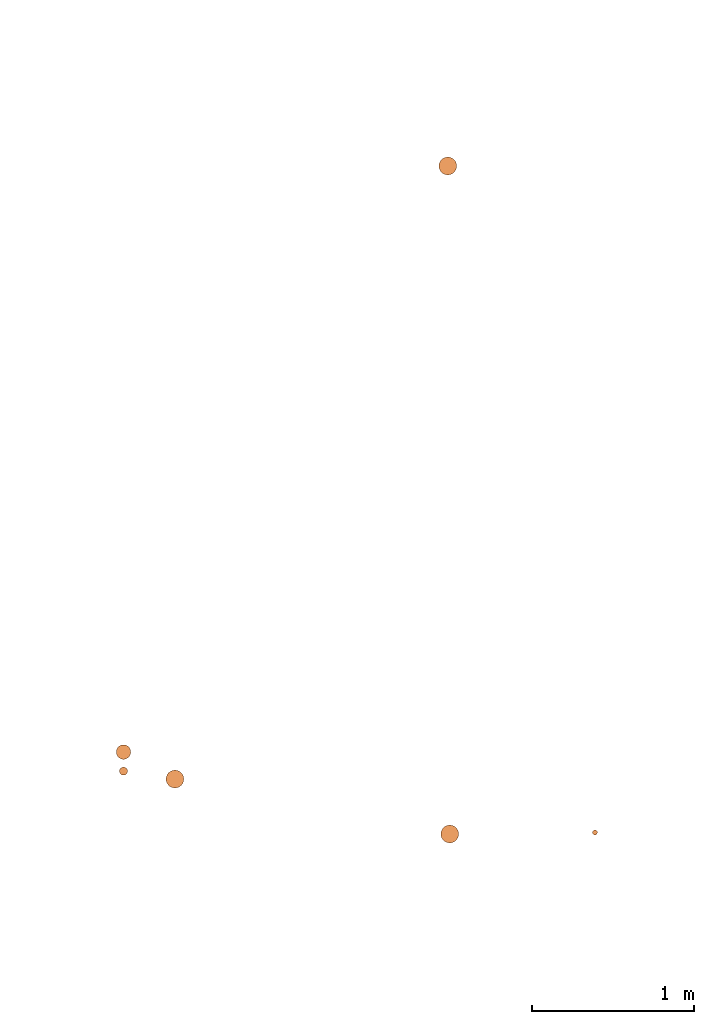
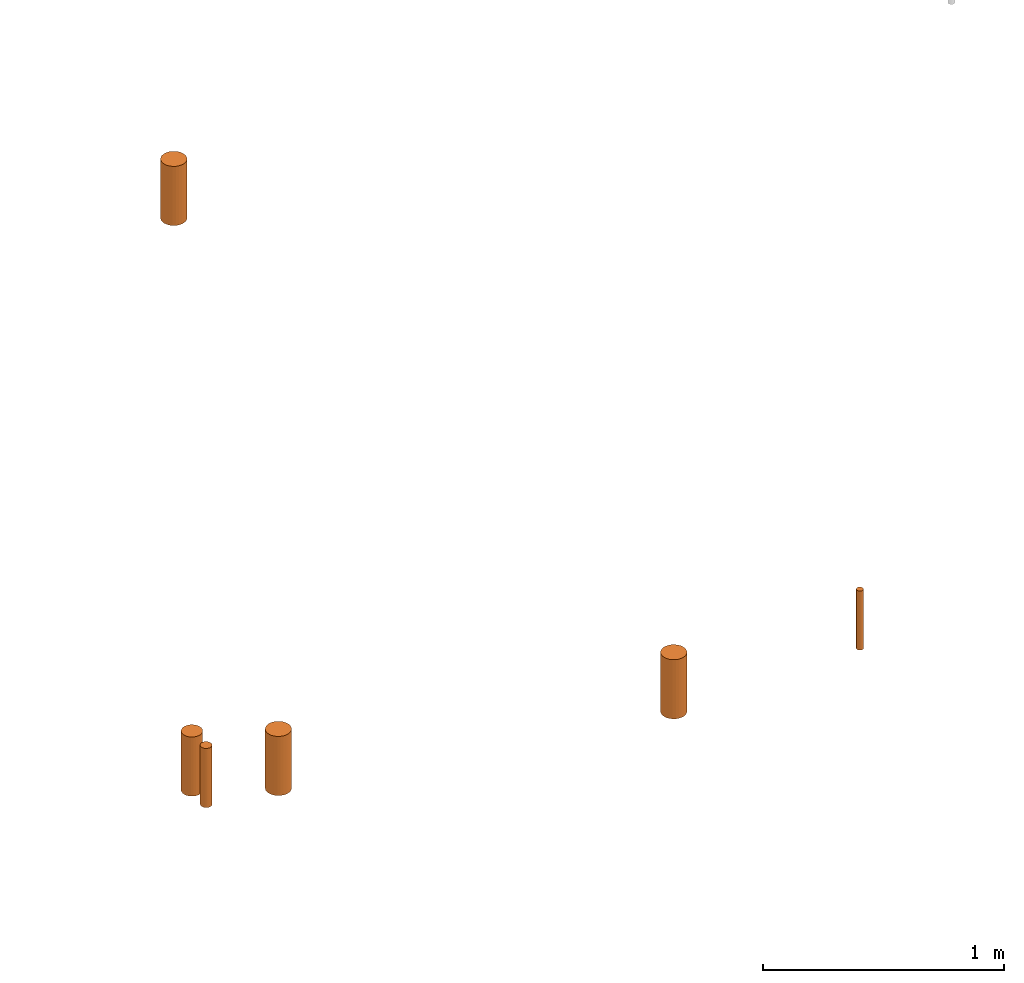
# One storey, part 6 of 16: 6 proxies.
"""IFC2X3 building model written with IfcOpenShell, lengths in centimetres."""

from ifc_helpers import new_model, entity, si_unit, converted_unit, derived_unit, direction, frame, origin, origin_2d_with_axis, place, context, subcontext, project, spatial, circle, extrude, source, transform, mapped, material, type_object, type_shapes, element, save


model = new_model("IFC2X3")

# Units and contexts
model_context = context("Model", 3, precision=0.001, world=origin(), true_north=direction((6.12303176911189e-17, 1.0)))
body_context = subcontext(model_context, "Body", "Model", "MODEL_VIEW")
ifc_project = project(units=[si_unit("LENGTHUNIT", "METRE", prefix="CENTI"), si_unit("AREAUNIT", "SQUARE_METRE"), si_unit("VOLUMEUNIT", "CUBIC_METRE"), converted_unit("PLANEANGLEUNIT", "DEGREE", entity("IfcRatioMeasure", 0.0174532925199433), si_unit("PLANEANGLEUNIT", "RADIAN"), dimensions=[0, 0, 0, 0, 0, 0, 0]), si_unit("MASSUNIT", "GRAM", prefix="KILO"), derived_unit("MASSDENSITYUNIT", [(si_unit("MASSUNIT", "GRAM", prefix="KILO"), 1), (si_unit("LENGTHUNIT", "METRE"), -3)]), si_unit("TIMEUNIT", "SECOND"), si_unit("FREQUENCYUNIT", "HERTZ"), si_unit("THERMODYNAMICTEMPERATUREUNIT", "DEGREE_CELSIUS"), derived_unit("THERMALTRANSMITTANCEUNIT", [(si_unit("MASSUNIT", "GRAM", prefix="KILO"), 1), (si_unit("THERMODYNAMICTEMPERATUREUNIT", "KELVIN"), -1), (si_unit("TIMEUNIT", "SECOND"), -3)]), derived_unit("VOLUMETRICFLOWRATEUNIT", [(si_unit("LENGTHUNIT", "METRE"), 3), (si_unit("TIMEUNIT", "SECOND"), -1)]), si_unit("ELECTRICCURRENTUNIT", "AMPERE"), si_unit("ELECTRICVOLTAGEUNIT", "VOLT"), si_unit("POWERUNIT", "WATT"), si_unit("FORCEUNIT", "NEWTON"), si_unit("ILLUMINANCEUNIT", "LUX"), si_unit("LUMINOUSFLUXUNIT", "LUMEN"), si_unit("LUMINOUSINTENSITYUNIT", "CANDELA"), derived_unit("USERDEFINED", [(si_unit("MASSUNIT", "GRAM", prefix="KILO"), -1), (si_unit("LENGTHUNIT", "METRE"), -2), (si_unit("TIMEUNIT", "SECOND"), 3), (si_unit("LUMINOUSFLUXUNIT", "LUMEN"), 1)]), derived_unit("LINEARVELOCITYUNIT", [(si_unit("LENGTHUNIT", "METRE"), 1), (si_unit("TIMEUNIT", "SECOND"), -1)]), si_unit("PRESSUREUNIT", "PASCAL"), derived_unit("USERDEFINED", [(si_unit("LENGTHUNIT", "METRE"), -2), (si_unit("MASSUNIT", "GRAM", prefix="KILO"), 1), (si_unit("TIMEUNIT", "SECOND"), -2)])], contexts=[model_context])

# Site, building, storey
site_placement = place(None, origin())
site = spatial("IfcSite", under=ifc_project, at=site_placement, Name="Default", CompositionType="ELEMENT")
building_placement = place(site_placement, origin())
building = spatial("IfcBuilding", under=site, at=building_placement, Name="CAGE 03", CompositionType="ELEMENT")
storey_placement = place(building_placement, frame((0.0, 0.0, 65.0)))
storey = spatial("IfcBuildingStorey", under=building, at=storey_placement, Name="Ac RDC", CompositionType="ELEMENT", Elevation=64.9999999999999)

# Proxies
ifc_material = material(Name="BBGO_Résa")
building_element_proxy_type_1 = type_object("IfcBuildingElementProxyType", Name="Ø110", PredefinedType="NOTDEFINED", material=ifc_material)
shared_shape_1 = source(origin(), body_context, "Body", "SweptSolid", [
    extrude(circle(Radius=5.5, at=origin_2d_with_axis()), frame((6306.84420529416, 4879.61973520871, 310.0)), (0.0, 0.0, 1.0), 29.9999999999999),
])
type_shapes(building_element_proxy_type_1, [shared_shape_1])
proxy_1_placement = place(storey_placement, frame((0.0, 0.0, -65.0)))
element("IfcBuildingElementProxy", 1, at=proxy_1_placement, inside=storey, type_object=building_element_proxy_type_1, material=ifc_material, Name="BBGO-Résa circ dalle:Ø110", ObjectType="Ø110", context=body_context, shape_type="MappedRepresentation", body=[
    mapped(shared_shape_1, transform((0.0, 0.0, 0.0), scale=1.0)),
])
building_element_proxy_type_2 = type_object("IfcBuildingElementProxyType", Name="Ø110", PredefinedType="NOTDEFINED", material=ifc_material)
shared_shape_2 = source(origin(), body_context, "Body", "SweptSolid", [
    extrude(circle(Radius=5.5, at=origin_2d_with_axis()), frame((6308.05703024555, 4466.34830104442, 310.0)), (0.0, 0.0, 1.0), 29.9999999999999),
])
type_shapes(building_element_proxy_type_2, [shared_shape_2])
proxy_2_placement = place(storey_placement, frame((0.0, 0.0, -65.0)))
element("IfcBuildingElementProxy", 2, at=proxy_2_placement, inside=storey, type_object=building_element_proxy_type_2, material=ifc_material, Name="BBGO-Résa circ dalle:Ø110", ObjectType="Ø110", context=body_context, shape_type="MappedRepresentation", body=[
    mapped(shared_shape_2, transform((0.0, 0.0, 0.0), scale=1.0)),
])
building_element_proxy_type_3 = type_object("IfcBuildingElementProxyType", Name="Ø30", PredefinedType="NOTDEFINED", material=ifc_material)
shared_shape_3 = source(origin(), body_context, "Body", "SweptSolid", [
    extrude(circle(Radius=1.5, at=origin_2d_with_axis()), frame((6397.86782635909, 4467.30666915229, 310.0)), (0.0, 0.0, 1.0), 29.9999999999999),
])
type_shapes(building_element_proxy_type_3, [shared_shape_3])
proxy_3_placement = place(storey_placement, frame((0.0, 0.0, -65.0)))
element("IfcBuildingElementProxy", 3, at=proxy_3_placement, inside=storey, type_object=building_element_proxy_type_3, material=ifc_material, Name="BBGO-Résa circ dalle:Ø30", ObjectType="Ø30", context=body_context, shape_type="MappedRepresentation", body=[
    mapped(shared_shape_3, transform((0.0, 0.0, 0.0), scale=1.0)),
])
building_element_proxy_type_4 = type_object("IfcBuildingElementProxyType", Name="Ø110", PredefinedType="NOTDEFINED", material=ifc_material)
shared_shape_4 = source(origin(), body_context, "Body", "SweptSolid", [
    extrude(circle(Radius=5.5, at=origin_2d_with_axis()), frame((6138.03810127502, 4500.35421277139, 310.0)), (0.0, 0.0, 1.0), 29.9999999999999),
])
type_shapes(building_element_proxy_type_4, [shared_shape_4])
proxy_4_placement = place(storey_placement, frame((0.0, 0.0, -65.0)))
element("IfcBuildingElementProxy", 4, at=proxy_4_placement, inside=storey, type_object=building_element_proxy_type_4, material=ifc_material, Name="BBGO-Résa circ dalle:Ø110", ObjectType="Ø110", context=body_context, shape_type="MappedRepresentation", body=[
    mapped(shared_shape_4, transform((0.0, 0.0, 0.0), scale=1.0)),
])
building_element_proxy_type_5 = type_object("IfcBuildingElementProxyType", Name="Ø90", PredefinedType="NOTDEFINED", material=ifc_material)
shared_shape_5 = source(origin(), body_context, "Body", "SweptSolid", [
    extrude(circle(Radius=4.5, at=origin_2d_with_axis()), frame((6106.22273629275, 4517.07558993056, 310.0)), (0.0, 0.0, 1.0), 29.9999999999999),
])
type_shapes(building_element_proxy_type_5, [shared_shape_5])
proxy_5_placement = place(storey_placement, frame((0.0, 0.0, -65.0)))
element("IfcBuildingElementProxy", 5, at=proxy_5_placement, inside=storey, type_object=building_element_proxy_type_5, material=ifc_material, Name="BBGO-Résa circ dalle:Ø90", ObjectType="Ø90", context=body_context, shape_type="MappedRepresentation", body=[
    mapped(shared_shape_5, transform((0.0, 0.0, 0.0), scale=1.0)),
])
building_element_proxy_type_6 = type_object("IfcBuildingElementProxyType", Name="Ø50", PredefinedType="NOTDEFINED", material=ifc_material)
shared_shape_6 = source(origin(), body_context, "Body", "SweptSolid", [
    extrude(circle(Radius=2.5, at=origin_2d_with_axis()), frame((6106.22273629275, 4505.23903904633, 310.0)), (0.0, 0.0, 1.0), 29.9999999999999),
])
type_shapes(building_element_proxy_type_6, [shared_shape_6])
proxy_6_placement = place(storey_placement, frame((0.0, 0.0, -65.0)))
element("IfcBuildingElementProxy", 6, at=proxy_6_placement, inside=storey, type_object=building_element_proxy_type_6, material=ifc_material, Name="BBGO-Résa circ dalle:Ø50", ObjectType="Ø50", context=body_context, shape_type="MappedRepresentation", body=[
    mapped(shared_shape_6, transform((0.0, 0.0, 0.0), scale=1.0)),
])

save(model, "model.ifc")
